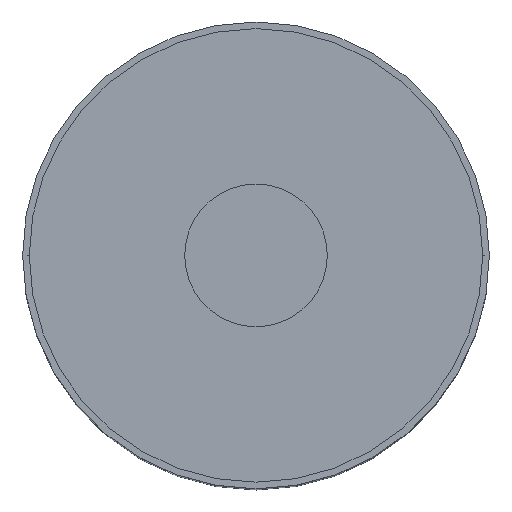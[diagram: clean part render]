
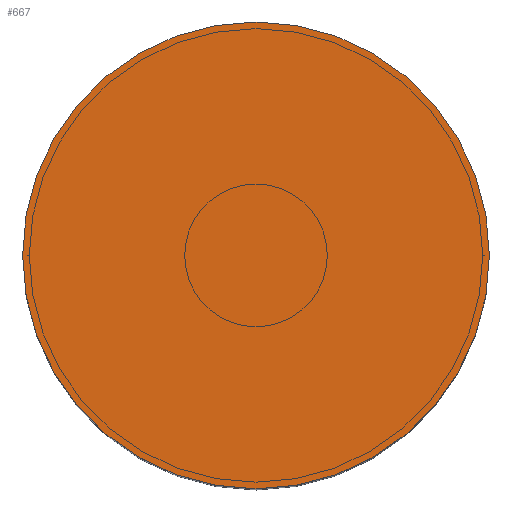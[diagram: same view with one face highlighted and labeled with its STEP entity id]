
A CAD part, top view. The second image highlights one B-rep face of the part: STEP entity #667.
In plain terms, the highlighted planar face has unit normal (0, 0, 1).
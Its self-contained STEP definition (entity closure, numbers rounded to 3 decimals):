
#15 = AXIS2_PLACEMENT_3D ( 'NONE', #484, #481, #479 ) ;
#21 = PLANE ( 'NONE',  #351 ) ;
#59 = VERTEX_POINT ( 'NONE', #146 ) ;
#60 = DIRECTION ( 'NONE',  ( 0., 0., -1. ) ) ;
#107 = EDGE_CURVE ( 'NONE', #390, #59, #734, .T. ) ;
#143 = DIRECTION ( 'NONE',  ( 1., 0., 0. ) ) ;
#146 = CARTESIAN_POINT ( 'NONE',  ( 18., 0., 60.075 ) ) ;
#177 = EDGE_CURVE ( 'NONE', #59, #390, #583, .T. ) ;
#257 = ORIENTED_EDGE ( 'NONE', *, *, #107, .F. ) ;
#326 = CARTESIAN_POINT ( 'NONE',  ( 0., 0., 60.075 ) ) ;
#328 = DIRECTION ( 'NONE',  ( 1., 0., 0. ) ) ;
#346 = ORIENTED_EDGE ( 'NONE', *, *, #177, .F. ) ;
#351 = AXIS2_PLACEMENT_3D ( 'NONE', #326, #655, #328 ) ;
#375 = CARTESIAN_POINT ( 'NONE',  ( 0., 0., 60.075 ) ) ;
#390 = VERTEX_POINT ( 'NONE', #772 ) ;
#470 = EDGE_LOOP ( 'NONE', ( #346, #257 ) ) ;
#479 = DIRECTION ( 'NONE',  ( 1., 0., 0. ) ) ;
#481 = DIRECTION ( 'NONE',  ( 0., 0., -1. ) ) ;
#484 = CARTESIAN_POINT ( 'NONE',  ( 0., 0., 60.075 ) ) ;
#530 = FACE_OUTER_BOUND ( 'NONE', #470, .T. ) ;
#583 = CIRCLE ( 'NONE', #817, 18. ) ;
#655 = DIRECTION ( 'NONE',  ( 0., 0., 1. ) ) ;
#667 = ADVANCED_FACE ( 'NONE', ( #530 ), #21, .T. ) ;
#734 = CIRCLE ( 'NONE', #15, 18. ) ;
#772 = CARTESIAN_POINT ( 'NONE',  ( -18., 0., 60.075 ) ) ;
#817 = AXIS2_PLACEMENT_3D ( 'NONE', #375, #60, #143 ) ;
